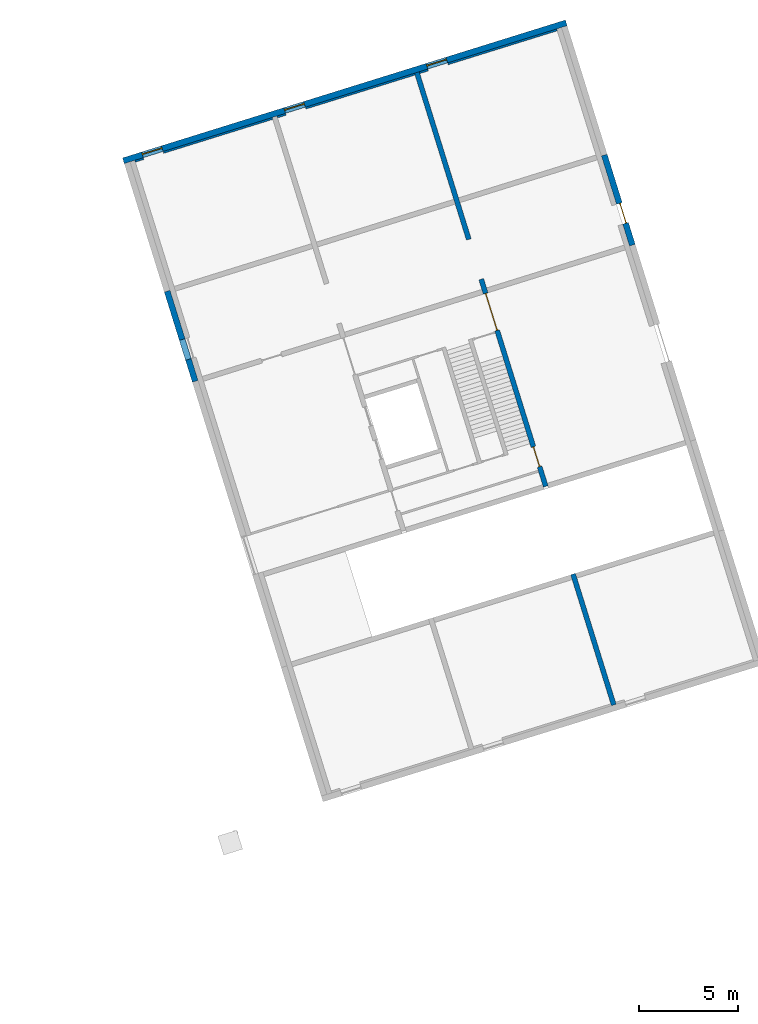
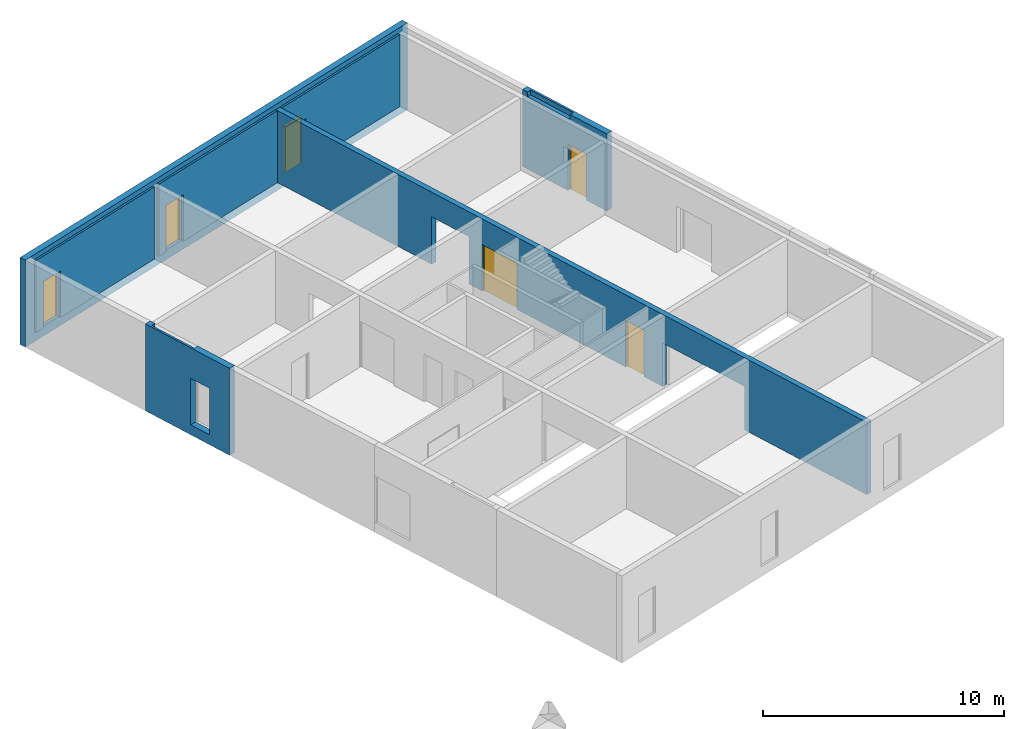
# One storey, part 4 of 6: 7 walls, 6 doors, 11 openings.
"""IFC4 building model written with IfcOpenShell, lengths in metres."""

from ifc_helpers import new_model, entity, si_unit, converted_unit, direction, frame, origin, place, context, subcontext, project, spatial, indexed_curve, outline, extrude, polygons, source, transform, mapped, material, constituent, constituent_set, type_object, type_shapes, element, fill, save


model = new_model("IFC4")

# Units and contexts
model_context = context("Model", 3, precision=1e-05, world=origin(), true_north=direction((6.12323399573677e-17, 1.0)))
body_context = subcontext(model_context, "Body", "Model", "MODEL_VIEW")
ifc_project = project(units=[si_unit("LENGTHUNIT", "METRE"), si_unit("AREAUNIT", "SQUARE_METRE"), si_unit("VOLUMEUNIT", "CUBIC_METRE"), converted_unit("PLANEANGLEUNIT", "DEGREE", entity("IfcPlaneAngleMeasure", 0.0174532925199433), si_unit("PLANEANGLEUNIT", "RADIAN"), dimensions=[0, 0, 0, 0, 0, 0, 0])], contexts=[model_context])

# Site, building, storey
site_placement = place(None, frame((13.1347999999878, 11.9886000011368, 0.0), z_axis=(0.0, 0.0, 1.0), x_axis=(0.954770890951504, 0.297342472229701, 0.0)))
site = spatial("IfcSite", under=ifc_project, at=site_placement, Name="Schiehaven", CompositionType="ELEMENT")
building_placement = place(site_placement, origin())
building = spatial("IfcBuilding", under=site, at=building_placement, Name="VORM huis", CompositionType="ELEMENT")
storey_placement = place(building_placement, origin())
storey = spatial("IfcBuildingStorey", under=building, at=storey_placement, Name="00 begane grond", CompositionType="ELEMENT", Elevation=0.0)

# Wall, openings, doors
ifc_material_1 = material(Name="beton_gewapend_ihw", Category="Miscellaneous")
wall_type_1 = type_object("IfcWallType", Name="Basic Wall:28_WA_skelet_wand 250mm_gen", PredefinedType="STANDARD")
wall_1_placement = place(storey_placement, frame((20.0, 33.725, 0.0), z_axis=(0.0, 0.0, 1.0), x_axis=(0.0, -1.0, 0.0)))
wall_1 = element("IfcWall", 1, at=wall_1_placement, inside=storey, type_object=wall_type_1, material=ifc_material_1, Name="Constructieve wand", ObjectType="Wand", PredefinedType="NOTDEFINED", context=body_context, shape_type="Tessellation", body=[
    polygons([(33.35, -0.124999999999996, 0.0), (33.35, -0.124999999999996, 3.65), (21.95, -0.124999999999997, 3.65), (21.7, -0.124999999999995, 3.65), (11.65, -0.124999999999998, 3.65), (11.4, -0.124999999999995, 3.65), (-4.33146851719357e-15, -0.124999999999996, 3.65), (-4.33146851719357e-15, -0.124999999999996, 0.0), (8.80000000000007, -0.124999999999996, 0.0), (8.80000000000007, -0.124999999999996, 2.4), (10.9000000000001, -0.124999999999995, 2.4), (10.9000000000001, -0.124999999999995, 0.0), (11.4, -0.124999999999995, 0.0), (11.65, -0.124999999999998, 0.0), (11.65, -0.124999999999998, 2.34999999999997), (13.6, -0.124999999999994, 2.34999999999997), (13.6, -0.124999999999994, 0.0), (19.735, -0.124999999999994, 0.0), (19.735, -0.124999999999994, 2.34999999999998), (20.785, -0.124999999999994, 2.34999999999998), (20.785, -0.124999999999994, 0.0), (21.7, -0.124999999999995, 0.0), (21.95, -0.124999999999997, 0.0), (21.95, -0.124999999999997, 2.2), (26.4499999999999, -0.124999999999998, 2.2), (26.4499999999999, -0.124999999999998, 0.0), (33.35, 0.125000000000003, 3.65), (33.35, 0.125000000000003, 0.0), (26.4499999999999, 0.125000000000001, 0.0), (26.4499999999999, 0.125000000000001, 2.2), (21.95, 0.125000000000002, 2.2), (21.95, 0.125000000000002, 0.0), (20.785, 0.125000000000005, 0.0), (20.785, 0.125000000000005, 2.34999999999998), (19.735, 0.125000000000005, 2.34999999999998), (19.735, 0.125000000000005, 0.0), (13.6, 0.125000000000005, 0.0), (13.6, 0.125000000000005, 2.34999999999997), (11.65, 0.125000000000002, 2.34999999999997), (11.65, 0.125000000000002, 0.0), (10.9000000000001, 0.125000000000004, 0.0), (10.9000000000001, 0.125000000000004, 2.4), (8.80000000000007, 0.125000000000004, 2.4), (8.80000000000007, 0.125000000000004, 0.0), (-4.33146851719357e-15, 0.125000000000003, 0.0), (-4.33146851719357e-15, 0.125000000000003, 3.65)], [[[1, 2, 3, 4, 5, 6, 7, 8, 9, 10, 11, 12, 13, 14, 15, 16, 17, 18, 19, 20, 21, 22, 23, 24, 25, 26]], [[27, 28, 29, 30, 31, 32, 33, 34, 35, 36, 37, 38, 39, 40, 41, 42, 43, 44, 45, 46]], [[8, 45, 44, 9]], [[2, 1, 28, 27]], [[7, 6, 5, 4, 3, 2, 27, 46]], [[8, 7, 46, 45]], [[10, 43, 42, 11]], [[43, 10, 9, 44]], [[11, 42, 41, 12]], [[21, 20, 34, 33]], [[19, 18, 36, 35]], [[20, 19, 35, 34]], [[39, 15, 14, 40]], [[16, 38, 37, 17]], [[15, 39, 38, 16]], [[25, 30, 29, 26]], [[30, 25, 24, 31]], [[31, 24, 23, 32]], [[12, 41, 40, 14, 13]], [[21, 33, 32, 23, 22]], [[28, 1, 26, 29]], [[36, 18, 17, 37]]], closed=True),
])
opening_1_placement = place(wall_1_placement, origin())
element("IfcOpeningElement", 2, at=opening_1_placement, cuts=wall_1, Name="Constructieve wand", PredefinedType="OPENING", context=body_context, shape_type="SweptSolid", body=[
    extrude(outline(indexed_curve([(-1.2, -1.05), (1.2, -1.05), (1.2, 1.05), (-1.2, 1.05), (-1.2, -1.05)], self_intersect=False)), frame((9.85000000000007, -0.125, 1.2), z_axis=(0.0, 1.0, 0.0), x_axis=(0.0, 0.0, -1.0)), (0.0, 0.0, 1.0), 0.250000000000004),
])
opening_2_placement = place(wall_1_placement, origin())
element("IfcOpeningElement", 3, at=opening_2_placement, cuts=wall_1, Name="Constructieve wand", PredefinedType="OPENING", context=body_context, shape_type="SweptSolid", body=[
    extrude(outline(indexed_curve([(-1.1, -2.31249999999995), (1.1, -2.31249999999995), (1.1, 2.31249999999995), (-1.1, 2.31249999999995), (-1.1, -2.31249999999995)], self_intersect=False)), frame((24.1374999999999, -0.125000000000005, 1.1), z_axis=(0.0, 1.0, 0.0), x_axis=(0.0, 0.0, -1.0)), (0.0, 0.0, 1.0), 0.250000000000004),
])
opening_3_placement = place(wall_1_placement, frame((19.735, -0.124999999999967, 0.0)))
opening_3 = element("IfcOpeningElement", 4, at=opening_3_placement, cuts=wall_1, Name="Vluchtdeur", PredefinedType="OPENING", context=body_context, shape_type="SweptSolid", body=[
    extrude(outline(indexed_curve([(2.34999999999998, 1.05), (0.0, 1.05), (0.0, 0.0), (2.34999999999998, 0.0), (2.34999999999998, 1.05)], self_intersect=False)), frame((0.0, 0.0, 0.0), z_axis=(0.0, 1.0, 0.0), x_axis=(0.0, 0.0, 1.0)), (0.0, 0.0, 1.0), 0.25),
])
opening_4_placement = place(wall_1_placement, frame((11.65, -0.124999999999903, 0.0)))
opening_4 = element("IfcOpeningElement", 5, at=opening_4_placement, cuts=wall_1, Name="Vluchtdeur", PredefinedType="OPENING", context=body_context, shape_type="SweptSolid", body=[
    extrude(outline(indexed_curve([(2.34999999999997, 2.16573425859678e-15), (2.34999999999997, 1.95), (0.0, 1.95), (0.0, 2.16573425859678e-15), (2.34999999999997, 2.16573425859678e-15)], self_intersect=False)), frame((0.0, 0.0, 0.0), z_axis=(0.0, 1.0, 0.0), x_axis=(0.0, 0.0, 1.0)), (0.0, 0.0, 1.0), 0.25),
])
ifc_material_2 = material(Name="PD_a_binnenwandopeningen", Category="Miscellaneous")
ifc_constituent_1 = constituent(ifc_material_2, Name="PD_a_binnenwandopeningen", Category="Miscellaneous")
ifc_material_3 = material(Name="metaal_aluminium_ntb", Category="Miscellaneous")
ifc_constituent_2 = constituent(ifc_material_3, Name="metaal_aluminium_ntb", Category="Miscellaneous")
ifc_constituent_set_1 = constituent_set(constituents=[ifc_constituent_1, ifc_constituent_2])
ifc_constituent_3 = constituent(ifc_material_2, Name="PD_a_binnenwandopeningen", Category="Miscellaneous")
ifc_constituent_4 = constituent(ifc_material_3, Name="Panel", Category="Miscellaneous")
ifc_constituent_set_2 = constituent_set(constituents=[ifc_constituent_3, ifc_constituent_4])
door_type_1 = type_object("IfcDoorType", Name="32_DO_binnendeur enkel:binnendeur zelfsluitend 30min", OperationType="NOTDEFINED", PredefinedType="DOOR", material=ifc_constituent_set_2)
shared_shape_1 = source(origin(), body_context, "Body", "SweptSolid", [
    extrude(outline(indexed_curve([(-1.16249999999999, -0.525000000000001), (1.18749999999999, -0.525), (1.18749999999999, 0.525000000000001), (-1.16249999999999, 0.525000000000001), (-1.16249999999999, 0.475), (1.13749999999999, 0.475), (1.13749999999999, -0.475), (-1.16249999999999, -0.475), (-1.16249999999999, -0.525000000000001)], self_intersect=False)), frame((0.525000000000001, 0.0749999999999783, 1.16249999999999), z_axis=(0.0, 1.0, 0.0), x_axis=(0.0, 0.0, 1.0)), (0.0, 0.0, 1.0), 0.1),
    extrude(outline(indexed_curve([(-0.025, -0.475), (0.025, -0.475), (0.025, 0.475), (-0.025, 0.475), (-0.025, -0.475)], self_intersect=False)), frame((0.525000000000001, 0.12499999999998, 0.0), z_axis=(0.0, 0.0, 1.0), x_axis=(0.0, 1.0, 0.0)), (0.0, 0.0, 1.0), 2.29999999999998),
])
type_shapes(door_type_1, [shared_shape_1])
door_1_placement = place(opening_3_placement, origin())
door_1 = element("IfcDoor", 6, at=door_1_placement, inside=storey, type_object=door_type_1, material=ifc_constituent_set_1, Name="Vluchtdeur", ObjectType="Deur", OperationType="NOTDEFINED", OverallHeight=2.34999999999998, OverallWidth=1.05, PredefinedType="DOOR", context=body_context, shape_type="MappedRepresentation", body=[
    mapped(shared_shape_1, transform((0.0, 0.0, 0.0), scale=1.0)),
])
fill(opening_3, door_1)
ifc_constituent_5 = constituent(ifc_material_2, Name="PD_a_binnenwandopeningen", Category="Miscellaneous")
ifc_constituent_6 = constituent(ifc_material_3, Name="metaal_aluminium_ntb", Category="Miscellaneous")
ifc_constituent_set_3 = constituent_set(constituents=[ifc_constituent_5, ifc_constituent_6])
ifc_constituent_7 = constituent(ifc_material_2, Name="PD_a_binnenwandopeningen", Category="Miscellaneous")
ifc_constituent_8 = constituent(ifc_material_3, Name="Panel", Category="Miscellaneous")
ifc_constituent_set_4 = constituent_set(constituents=[ifc_constituent_7, ifc_constituent_8])
door_type_2 = type_object("IfcDoorType", Name="32_DO_binnendeur dubbel:binnendeur zelfsluitend 30min", OperationType="NOTDEFINED", PredefinedType="DOOR", material=ifc_constituent_set_4)
shared_shape_2 = source(origin(), body_context, "Body", "SweptSolid", [
    extrude(outline(indexed_curve([(0.925, -1.16249999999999), (0.975, -1.16249999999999), (0.975, 1.18749999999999), (-0.975, 1.18749999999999), (-0.975, -1.16249999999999), (-0.925, -1.16249999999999), (-0.925, 1.13749999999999), (0.925, 1.13749999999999), (0.925, -1.16249999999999)], self_intersect=False)), frame((0.975000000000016, 0.175000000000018, 1.16249999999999), z_axis=(0.0, -1.0, 0.0), x_axis=(1.0, 0.0, 0.0)), (0.0, 0.0, 1.0), 0.1),
    extrude(outline(indexed_curve([(-0.462499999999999, -0.025), (0.462499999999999, -0.025), (0.462499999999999, 0.025), (-0.462499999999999, 0.025), (-0.462499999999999, -0.025)], self_intersect=False)), frame((0.512500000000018, 0.124999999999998, 0.0)), (0.0, 0.0, 1.0), 2.29999999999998),
    extrude(outline(indexed_curve([(-0.4625, -0.025), (0.4625, -0.025), (0.4625, 0.025), (-0.4625, 0.025), (-0.4625, -0.025)], self_intersect=False)), frame((1.43750000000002, 0.125000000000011, 0.0)), (0.0, 0.0, 1.0), 2.29999999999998),
])
type_shapes(door_type_2, [shared_shape_2])
door_2_placement = place(opening_4_placement, origin())
door_2 = element("IfcDoor", 7, at=door_2_placement, inside=storey, type_object=door_type_2, material=ifc_constituent_set_3, Name="Vluchtdeur", ObjectType="Deur", OperationType="NOTDEFINED", OverallHeight=2.34999999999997, OverallWidth=1.95, PredefinedType="DOOR", context=body_context, shape_type="MappedRepresentation", body=[
    mapped(shared_shape_2, transform((0.0, 0.0, 0.0), scale=1.0)),
])
fill(opening_4, door_2)

# Wall, opening
ifc_material_4 = material(Name="ntb_ntb_ntb", Category="Miscellaneous")
wall_type_2 = type_object("IfcWallType", Name="Basic Wall:21_WA_gevel_binnenspouwwand 100mm_gen", PredefinedType="STANDARD")
wall_2_placement = place(storey_placement, frame((5.12500000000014, 33.675, 0.0)))
wall_2 = element("IfcWall", 8, at=wall_2_placement, inside=storey, type_object=wall_type_2, material=ifc_material_4, Name="Binnenspouwblad", ObjectType="Wand", PredefinedType="NOTDEFINED", context=body_context, shape_type="Tessellation", body=[
    polygons([(1.50000000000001, -0.0500000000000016, 2.34999999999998), (1.50000000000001, -0.0500000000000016, 0.0), (7.24999999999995, -0.049999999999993, 0.0), (7.24999999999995, -0.049999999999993, 3.65), (2.46339168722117e-16, -0.0499999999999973, 3.65), (2.46339168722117e-16, -0.0499999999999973, 0.0), (0.450000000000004, -0.0499999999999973, 0.0), (0.450000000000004, -0.0499999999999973, 2.34999999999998), (7.24999999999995, 0.0500000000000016, 0.0), (1.50000000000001, 0.0500000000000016, 0.0), (1.50000000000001, 0.0500000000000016, 2.34999999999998), (0.450000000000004, 0.0500000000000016, 2.34999999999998), (0.450000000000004, 0.0500000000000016, 0.0), (-7.81909157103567e-17, 0.0500000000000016, 0.0), (-7.81909157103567e-17, 0.0500000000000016, 3.65), (7.24999999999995, 0.0500000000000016, 3.65)], [[[1, 2, 3, 4, 5, 6, 7, 8]], [[9, 10, 11, 12, 13, 14, 15, 16]], [[7, 6, 14, 13]], [[4, 3, 9, 16]], [[5, 4, 16, 15]], [[6, 5, 15, 14]], [[13, 12, 8, 7]], [[11, 10, 2, 1]], [[12, 11, 1, 8]], [[3, 2, 10, 9]]], closed=True),
])
opening_5_placement = place(wall_2_placement, origin())
element("IfcOpeningElement", 9, at=opening_5_placement, cuts=wall_2, Name="Woningtoegangsdeur", PredefinedType="OPENING", context=body_context, shape_type="SweptSolid", body=[
    extrude(outline(indexed_curve([(-0.525000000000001, -1.17499999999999), (0.525000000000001, -1.17499999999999), (0.525, 1.17499999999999), (-0.525000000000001, 1.17499999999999), (-0.525000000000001, -1.17499999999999)], self_intersect=False)), frame((0.975000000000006, -1.47400000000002, 1.17499999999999), z_axis=(0.0, 1.0, 0.0), x_axis=(1.0, 0.0, 0.0)), (0.0, 0.0, 1.0), 3.048),
])

wall_3_placement = place(storey_placement, frame((19.8750000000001, 33.675, 0.0), z_axis=(0.0, 0.0, 1.0), x_axis=(-1.0, 0.0, 0.0)))
wall_3 = element("IfcWall", 10, at=wall_3_placement, inside=storey, type_object=wall_type_2, material=ifc_material_4, Name="Binnenspouwblad", ObjectType="Wand", PredefinedType="NOTDEFINED", context=body_context, shape_type="Tessellation", body=[
    polygons([(1.11295502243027e-15, -0.0499999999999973, 0.0), (5.7499999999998, -0.0499999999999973, 0.0), (5.7499999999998, -0.0499999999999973, 2.34999999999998), (6.79999999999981, -0.049999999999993, 2.34999999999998), (6.79999999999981, -0.049999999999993, 0.0), (7.24999999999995, -0.049999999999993, 0.0), (7.24999999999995, -0.049999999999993, 3.65), (1.11295502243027e-15, -0.0499999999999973, 3.65), (5.7499999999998, 0.0499999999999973, 2.34999999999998), (5.7499999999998, 0.0499999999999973, 0.0), (1.09681143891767e-15, 0.0499999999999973, 0.0), (1.09681143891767e-15, 0.0499999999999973, 3.65), (7.24999999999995, 0.0500000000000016, 3.65), (7.24999999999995, 0.0500000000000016, 0.0), (6.79999999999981, 0.0500000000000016, 0.0), (6.79999999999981, 0.0500000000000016, 2.34999999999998)], [[[1, 2, 3, 4, 5, 6, 7, 8]], [[9, 10, 11, 12, 13, 14, 15, 16]], [[11, 10, 2, 1]], [[7, 6, 14, 13]], [[8, 7, 13, 12]], [[1, 8, 12, 11]], [[5, 4, 16, 15]], [[3, 2, 10, 9]], [[4, 3, 9, 16]], [[15, 14, 6, 5]]], closed=True),
])
opening_6_placement = place(wall_3_placement, origin())
element("IfcOpeningElement", 11, at=opening_6_placement, cuts=wall_3, Name="Woningtoegangsdeur", PredefinedType="OPENING", context=body_context, shape_type="SweptSolid", body=[
    extrude(outline(indexed_curve([(-1.17499999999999, -0.525), (1.17499999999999, -0.525), (1.17499999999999, 0.525000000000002), (-1.17499999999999, 0.525000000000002), (-1.17499999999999, -0.525)], self_intersect=False)), frame((6.2749999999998, -1.57399999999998, 1.17499999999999), z_axis=(0.0, 1.0, 0.0), x_axis=(0.0, 0.0, -1.0)), (0.0, 0.0, 1.0), 3.048),
])

wall_4_placement = place(storey_placement, frame((20.1250000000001, 33.675, 0.0)))
wall_4 = element("IfcWall", 12, at=wall_4_placement, inside=storey, type_object=wall_type_2, material=ifc_material_4, Name="Binnenspouwblad", ObjectType="Wand", PredefinedType="NOTDEFINED", context=body_context, shape_type="Tessellation", body=[
    polygons([(1.50000000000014, -0.0499999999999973, 2.34999999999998), (1.50000000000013, -0.0499999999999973, 0.0), (7.24999999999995, -0.049999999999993, 0.0), (7.24999999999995, -0.049999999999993, 3.65), (-8.36527960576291e-16, -0.0499999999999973, 3.65), (-8.36527960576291e-16, -0.0499999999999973, 0.0), (0.450000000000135, -0.0499999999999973, 0.0), (0.450000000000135, -0.0499999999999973, 2.34999999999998), (7.24999999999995, 0.050000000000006, 0.0), (1.50000000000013, 0.0500000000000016, 0.0), (1.50000000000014, 0.0500000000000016, 2.34999999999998), (0.450000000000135, 0.0500000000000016, 2.34999999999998), (0.450000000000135, 0.0500000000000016, 0.0), (-1.16105804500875e-15, 0.0500000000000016, 0.0), (-1.16105804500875e-15, 0.0500000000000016, 3.65), (7.24999999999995, 0.050000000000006, 3.65)], [[[1, 2, 3, 4, 5, 6, 7, 8]], [[9, 10, 11, 12, 13, 14, 15, 16]], [[7, 6, 14, 13]], [[4, 3, 9, 16]], [[5, 4, 16, 15]], [[6, 5, 15, 14]], [[13, 12, 8, 7]], [[11, 10, 2, 1]], [[12, 11, 1, 8]], [[3, 2, 10, 9]]], closed=True),
])
opening_7_placement = place(wall_4_placement, origin())
element("IfcOpeningElement", 13, at=opening_7_placement, cuts=wall_4, Name="Woningtoegangsdeur", PredefinedType="OPENING", context=body_context, shape_type="SweptSolid", body=[
    extrude(outline(indexed_curve([(-0.525000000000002, -1.17499999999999), (0.525000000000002, -1.17499999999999), (0.524999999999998, 1.17499999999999), (-0.525000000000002, 1.17499999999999), (-0.525000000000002, -1.17499999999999)], self_intersect=False)), frame((0.975000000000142, -1.47400000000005, 1.17499999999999), z_axis=(0.0, 1.0, 0.0), x_axis=(1.0, 0.0, 0.0)), (0.0, 0.0, 1.0), 3.048),
])

# Wall, openings, doors
wall_type_3 = type_object("IfcWallType", Name="Basic Wall: 300mm_gen", PredefinedType="STANDARD")
wall_5_placement = place(storey_placement, frame((4.57500000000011, 33.875, -0.5)))
wall_5 = element("IfcWall", 14, at=wall_5_placement, inside=storey, type_object=wall_type_3, material=ifc_material_4, Name="Gevelwand", ObjectType="Wand", PredefinedType="NOTDEFINED", context=body_context, shape_type="Tessellation", body=[
    polygons([(5.76727554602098e-16, -0.150000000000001, 0.0), (0.3, -0.150000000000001, 0.0), (23.35, -0.150000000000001, 0.0), (23.35, -0.150000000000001, 0.5), (23.35, -0.150000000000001, 4.4), (23.05, -0.150000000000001, 4.4), (0.300000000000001, -0.150000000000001, 4.4), (3.28389537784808e-15, -0.150000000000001, 4.4), (1.00000000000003, -0.149999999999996, 2.84999999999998), (2.05000000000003, -0.150000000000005, 2.84999999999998), (2.05000000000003, -0.150000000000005, 0.5), (1.00000000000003, -0.149999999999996, 0.5), (8.50000000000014, -0.150000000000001, 2.84999999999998), (9.55000000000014, -0.149999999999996, 2.84999999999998), (9.55000000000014, -0.149999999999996, 0.5), (8.50000000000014, -0.150000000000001, 0.5), (16.0000000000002, -0.150000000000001, 2.84999999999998), (17.0500000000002, -0.150000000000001, 2.84999999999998), (17.0500000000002, -0.150000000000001, 0.5), (16.0000000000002, -0.150000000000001, 0.5), (2.66772159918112e-15, 0.150000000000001, 0.0), (-3.94462240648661e-17, 0.150000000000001, 4.4), (23.35, 0.150000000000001, 4.4), (23.35, 0.150000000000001, 0.0), (16.0000000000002, 0.150000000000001, 2.84999999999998), (16.0000000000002, 0.150000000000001, 0.5), (17.0500000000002, 0.150000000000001, 0.5), (17.0500000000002, 0.150000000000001, 2.84999999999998), (8.50000000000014, 0.150000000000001, 2.84999999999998), (8.50000000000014, 0.150000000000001, 0.5), (9.55000000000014, 0.150000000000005, 0.5), (9.55000000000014, 0.150000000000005, 2.84999999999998), (1.00000000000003, 0.150000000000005, 2.84999999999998), (1.00000000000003, 0.150000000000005, 0.5), (2.05000000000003, 0.149999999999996, 0.5), (2.05000000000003, 0.149999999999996, 2.84999999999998)], [[[1, 2, 3, 4, 5, 6, 7, 8], [9, 10, 11, 12], [13, 14, 15, 16], [17, 18, 19, 20]], [[21, 22, 23, 24], [25, 26, 27, 28], [29, 30, 31, 32], [33, 34, 35, 36]], [[3, 2, 1, 21, 24]], [[8, 7, 6, 5, 23, 22]], [[1, 8, 22, 21]], [[26, 25, 17, 20]], [[27, 26, 20, 19]], [[28, 27, 19, 18]], [[25, 28, 18, 17]], [[30, 29, 13, 16]], [[31, 30, 16, 15]], [[32, 31, 15, 14]], [[29, 32, 14, 13]], [[34, 33, 9, 12]], [[35, 34, 12, 11]], [[36, 35, 11, 10]], [[33, 36, 10, 9]], [[5, 4, 3, 24, 23]]], closed=True),
])
opening_8_placement = place(wall_5_placement, frame((1.0, -0.150000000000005, 0.5)))
opening_8 = element("IfcOpeningElement", 15, at=opening_8_placement, cuts=wall_5, Name="Woningtoegangsdeur", PredefinedType="OPENING", context=body_context, shape_type="SweptSolid", body=[
    extrude(outline(indexed_curve([(2.34999999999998, 0.0), (2.34999999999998, 1.05), (0.0, 1.05), (0.0, 0.0), (2.34999999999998, 0.0)], self_intersect=False)), frame((0.0, 0.0, 0.0), z_axis=(0.0, 1.0, 0.0), x_axis=(0.0, 0.0, 1.0)), (0.0, 0.0, 1.0), 0.3),
])
opening_9_placement = place(wall_5_placement, frame((8.50000000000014, -0.150000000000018, 0.5)))
opening_9 = element("IfcOpeningElement", 16, at=opening_9_placement, cuts=wall_5, Name="Woningtoegangsdeur", PredefinedType="OPENING", context=body_context, shape_type="SweptSolid", body=[
    extrude(outline(indexed_curve([(2.34999999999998, 0.0), (2.34999999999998, 1.05), (0.0, 1.05), (0.0, 0.0), (2.34999999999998, 0.0)], self_intersect=False)), frame((0.0, 0.0, 0.0), z_axis=(0.0, 1.0, 0.0), x_axis=(0.0, 0.0, 1.0)), (0.0, 0.0, 1.0), 0.3),
])
opening_10_placement = place(wall_5_placement, frame((16.0, -0.150000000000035, 0.5)))
opening_10 = element("IfcOpeningElement", 17, at=opening_10_placement, cuts=wall_5, Name="Woningtoegangsdeur", PredefinedType="OPENING", context=body_context, shape_type="SweptSolid", body=[
    extrude(outline(indexed_curve([(2.34999999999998, 0.0), (2.34999999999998, 1.05), (0.0, 1.05), (0.0, 0.0), (2.34999999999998, 0.0)], self_intersect=False)), frame((0.0, 0.0, 0.0), z_axis=(0.0, 1.0, 0.0), x_axis=(0.0, 0.0, 1.0)), (0.0, 0.0, 1.0), 0.3),
])
ifc_material_5 = material(Name="PD_a_buitenwandopeningen", Category="Miscellaneous")
ifc_constituent_9 = constituent(ifc_material_5, Name="PD_a_buitenwandopeningen", Category="Miscellaneous")
ifc_constituent_10 = constituent(ifc_material_3, Name="metaal_aluminium_ntb", Category="Miscellaneous")
ifc_constituent_set_5 = constituent_set(constituents=[ifc_constituent_9, ifc_constituent_10])
ifc_constituent_11 = constituent(ifc_material_5, Name="PD_a_buitenwandopeningen", Category="Miscellaneous")
ifc_constituent_12 = constituent(ifc_material_3, Name="Panel", Category="Miscellaneous")
ifc_constituent_set_6 = constituent_set(constituents=[ifc_constituent_11, ifc_constituent_12])
door_type_3 = type_object("IfcDoorType", Name="31_DO_buitendeur enkel:woningtoegangsdeur", OperationType="REVOLVING", PredefinedType="DOOR", material=ifc_constituent_set_6)
shared_shape_3 = source(origin(), body_context, "Body", "SweptSolid", [
    extrude(outline(indexed_curve([(0.475, -1.16249999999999), (0.525000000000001, -1.16249999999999), (0.525000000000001, 1.18749999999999), (-0.525000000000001, 1.18749999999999), (-0.525000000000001, -1.16249999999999), (-0.475, -1.16249999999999), (-0.475, 1.13749999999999), (0.475, 1.13749999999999), (0.475, -1.16249999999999)], self_intersect=False)), frame((0.525000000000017, 0.230000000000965, 1.16249999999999), z_axis=(0.0, -1.0, 0.0), x_axis=(1.0, 0.0, 0.0)), (0.0, 0.0, 1.0), 0.1),
    extrude(outline(indexed_curve([(-0.475, -0.025), (0.475, -0.025), (0.475, 0.025), (-0.475, 0.025), (-0.475, -0.025)], self_intersect=False)), frame((0.525000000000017, 0.180000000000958, 0.0)), (0.0, 0.0, 1.0), 2.29999999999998),
])
type_shapes(door_type_3, [shared_shape_3])
door_3_placement = place(opening_8_placement, origin())
door_3 = element("IfcDoor", 18, at=door_3_placement, inside=storey, type_object=door_type_3, material=ifc_constituent_set_5, Name="Woningtoegangsdeur", ObjectType="Deur", OperationType="REVOLVING", OverallHeight=2.34999999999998, OverallWidth=1.05, PredefinedType="DOOR", context=body_context, shape_type="MappedRepresentation", body=[
    mapped(shared_shape_3, transform((0.0, 0.0, 0.0), scale=1.0)),
])
fill(opening_8, door_3)
ifc_constituent_13 = constituent(ifc_material_5, Name="PD_a_buitenwandopeningen", Category="Miscellaneous")
ifc_constituent_14 = constituent(ifc_material_3, Name="metaal_aluminium_ntb", Category="Miscellaneous")
ifc_constituent_set_7 = constituent_set(constituents=[ifc_constituent_13, ifc_constituent_14])
door_4_placement = place(opening_9_placement, origin())
door_4 = element("IfcDoor", 19, at=door_4_placement, inside=storey, type_object=door_type_3, material=ifc_constituent_set_7, Name="Woningtoegangsdeur", ObjectType="Deur", OperationType="REVOLVING", OverallHeight=2.34999999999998, OverallWidth=1.05, PredefinedType="DOOR", context=body_context, shape_type="MappedRepresentation", body=[
    mapped(shared_shape_3, transform((0.0, 0.0, 0.0), scale=1.0)),
])
fill(opening_9, door_4)
ifc_constituent_15 = constituent(ifc_material_5, Name="PD_a_buitenwandopeningen", Category="Miscellaneous")
ifc_constituent_16 = constituent(ifc_material_3, Name="metaal_aluminium_ntb", Category="Miscellaneous")
ifc_constituent_set_8 = constituent_set(constituents=[ifc_constituent_15, ifc_constituent_16])
door_5_placement = place(opening_10_placement, origin())
door_5 = element("IfcDoor", 20, at=door_5_placement, inside=storey, type_object=door_type_3, material=ifc_constituent_set_8, Name="Woningtoegangsdeur", ObjectType="Deur", OperationType="REVOLVING", OverallHeight=2.34999999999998, OverallWidth=1.05, PredefinedType="DOOR", context=body_context, shape_type="MappedRepresentation", body=[
    mapped(shared_shape_3, transform((0.0, 0.0, 0.0), scale=1.0)),
])
fill(opening_10, door_5)

# Wall, opening, door
wall_6_placement = place(storey_placement, frame((27.7750000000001, 26.9499999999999, 0.0), z_axis=(0.0, 0.0, 1.0), x_axis=(0.0, -1.0, 0.0)))
wall_6 = element("IfcWall", 21, at=wall_6_placement, inside=storey, type_object=wall_type_3, material=ifc_material_4, Name="Gevelwand", ObjectType="Wand", PredefinedType="NOTDEFINED", context=body_context, shape_type="Tessellation", body=[
    polygons([(4.74999999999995, -0.15, 0.0), (4.74999999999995, -0.15, 3.9), (2.67500000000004, -0.15, 3.9), (2.67500000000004, -0.15, 3.65), (0.275000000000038, -0.150000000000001, 3.65), (0.275000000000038, -0.150000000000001, 3.9), (-3.5527136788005e-15, -0.150000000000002, 3.9), (-3.5527136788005e-15, -0.150000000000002, 0.0), (2.54999999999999, -0.15, 0.0), (2.54999999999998, -0.15, 2.34999999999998), (3.59999999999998, -0.149999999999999, 2.34999999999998), (3.59999999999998, -0.149999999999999, 0.0), (4.74999999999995, 0.150000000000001, 3.9), (4.74999999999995, 0.150000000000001, 0.0), (3.59999999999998, 0.150000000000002, 0.0), (3.59999999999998, 0.150000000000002, 2.34999999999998), (2.54999999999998, 0.15, 2.34999999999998), (2.54999999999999, 0.15, 0.0), (-3.5527136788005e-15, 0.149999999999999, 0.0), (-3.5527136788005e-15, 0.149999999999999, 3.9), (0.275000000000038, 0.0499999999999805, 3.9), (2.67500000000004, 0.0499999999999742, 3.9), (2.67500000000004, 0.0499999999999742, 3.65), (0.275000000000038, 0.0499999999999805, 3.65)], [[[1, 2, 3, 4, 5, 6, 7, 8, 9, 10, 11, 12]], [[13, 14, 15, 16, 17, 18, 19, 20]], [[8, 19, 18, 9]], [[2, 1, 14, 13]], [[13, 20, 7, 6, 21, 22, 3, 2]], [[8, 7, 20, 19]], [[11, 10, 17, 16]], [[10, 9, 18, 17]], [[12, 11, 16, 15]], [[23, 24, 5, 4]], [[24, 21, 6, 5]], [[24, 23, 22, 21]], [[22, 23, 4, 3]], [[14, 1, 12, 15]]], closed=True),
])
opening_11_placement = place(wall_6_placement, frame((2.54999999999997, -0.150000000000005, 0.0)))
opening_11 = element("IfcOpeningElement", 22, at=opening_11_placement, cuts=wall_6, Name="Vluchtdeur", PredefinedType="OPENING", context=body_context, shape_type="SweptSolid", body=[
    extrude(outline(indexed_curve([(2.34999999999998, 1.05), (0.0, 1.05), (0.0, 0.0), (2.34999999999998, 0.0), (2.34999999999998, 1.05)], self_intersect=False)), frame((0.0, 0.0, 0.0), z_axis=(0.0, 1.0, 0.0), x_axis=(0.0, 0.0, 1.0)), (0.0, 0.0, 1.0), 0.3),
])
ifc_constituent_17 = constituent(ifc_material_5, Name="PD_a_buitenwandopeningen", Category="Miscellaneous")
ifc_constituent_18 = constituent(ifc_material_3, Name="metaal_aluminium_ntb", Category="Miscellaneous")
ifc_constituent_set_9 = constituent_set(constituents=[ifc_constituent_17, ifc_constituent_18])
ifc_constituent_19 = constituent(ifc_material_5, Name="PD_a_buitenwandopeningen", Category="Miscellaneous")
ifc_constituent_20 = constituent(ifc_material_3, Name="Panel", Category="Miscellaneous")
ifc_constituent_set_10 = constituent_set(constituents=[ifc_constituent_19, ifc_constituent_20])
door_type_4 = type_object("IfcDoorType", Name="31_DO_buitendeur enkel:buitendeur zelfsluitend 30min", OperationType="NOTDEFINED", PredefinedType="DOOR", material=ifc_constituent_set_10)
shared_shape_4 = source(origin(), body_context, "Body", "SweptSolid", [
    extrude(outline(indexed_curve([(-1.16249999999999, -0.525000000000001), (1.18749999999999, -0.525), (1.18749999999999, 0.525000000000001), (-1.16249999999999, 0.525), (-1.16249999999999, 0.475), (1.13749999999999, 0.475), (1.13749999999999, -0.475), (-1.16249999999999, -0.475), (-1.16249999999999, -0.525000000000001)], self_intersect=False)), frame((0.525000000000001, 0.130000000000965, 1.16249999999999), z_axis=(0.0, 1.0, 0.0), x_axis=(0.0, 0.0, 1.0)), (0.0, 0.0, 1.0), 0.1),
    extrude(outline(indexed_curve([(-0.025, -0.475), (0.025, -0.475), (0.025, 0.475), (-0.025, 0.475), (-0.025, -0.475)], self_intersect=False)), frame((0.525000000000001, 0.180000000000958, 0.0), z_axis=(0.0, 0.0, 1.0), x_axis=(0.0, 1.0, 0.0)), (0.0, 0.0, 1.0), 2.29999999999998),
])
type_shapes(door_type_4, [shared_shape_4])
door_6_placement = place(opening_11_placement, origin())
door_6 = element("IfcDoor", 23, at=door_6_placement, inside=storey, type_object=door_type_4, material=ifc_constituent_set_9, Name="Vluchtdeur", ObjectType="Deur", OperationType="NOTDEFINED", OverallHeight=2.34999999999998, OverallWidth=1.05, PredefinedType="DOOR", context=body_context, shape_type="MappedRepresentation", body=[
    mapped(shared_shape_4, transform((0.0, 0.0, 0.0), scale=1.0)),
])
fill(opening_11, door_6)

# Wall
wall_7_placement = place(storey_placement, frame((4.72500000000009, 22.2000000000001, -0.5), z_axis=(0.0, 0.0, 1.0), x_axis=(0.0, 1.0, 0.0)))
element("IfcWall", 24, at=wall_7_placement, inside=storey, type_object=wall_type_3, material=ifc_material_4, Name="Gevelwand", ObjectType="Wand", PredefinedType="NOTDEFINED", context=body_context, shape_type="Tessellation", body=[
    polygons([(3.5527136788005e-15, -0.149999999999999, 0.0), (4.74999999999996, -0.149999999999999, 0.0), (4.74999999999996, -0.149999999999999, 4.4), (4.4749999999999, -0.149999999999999, 4.4), (4.4749999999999, -0.149999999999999, 4.15), (2.07499999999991, -0.149999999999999, 4.15), (2.07499999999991, -0.149999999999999, 4.4), (3.5527136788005e-15, -0.149999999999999, 4.4), (1.14999999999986, -0.15, 0.5), (1.14999999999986, -0.15, 2.84999999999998), (2.19999999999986, -0.149999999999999, 2.84999999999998), (2.19999999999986, -0.149999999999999, 0.5), (4.74999999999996, 0.150000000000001, 0.0), (3.5527136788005e-15, 0.150000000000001, 0.0), (3.5527136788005e-15, 0.150000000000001, 4.4), (4.74999999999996, 0.150000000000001, 4.4), (1.14999999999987, 0.15, 2.84999999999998), (1.14999999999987, 0.15, 0.5), (2.19999999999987, 0.150000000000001, 0.5), (2.19999999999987, 0.150000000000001, 2.84999999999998), (2.07499999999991, 0.0500000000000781, 4.4), (4.4749999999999, 0.0500000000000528, 4.4), (4.4749999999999, 0.0500000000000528, 4.15), (2.07499999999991, 0.0500000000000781, 4.15)], [[[1, 2, 3, 4, 5, 6, 7, 8], [9, 10, 11, 12]], [[13, 14, 15, 16], [17, 18, 19, 20]], [[2, 1, 14, 13]], [[3, 2, 13, 16]], [[16, 15, 8, 7, 21, 22, 4, 3]], [[1, 8, 15, 14]], [[9, 18, 17, 10]], [[18, 9, 12, 19]], [[19, 12, 11, 20]], [[10, 17, 20, 11]], [[23, 24, 6, 5]], [[22, 23, 5, 4]], [[24, 23, 22, 21]], [[24, 21, 7, 6]]], closed=True),
])

save(model, "model.ifc")
